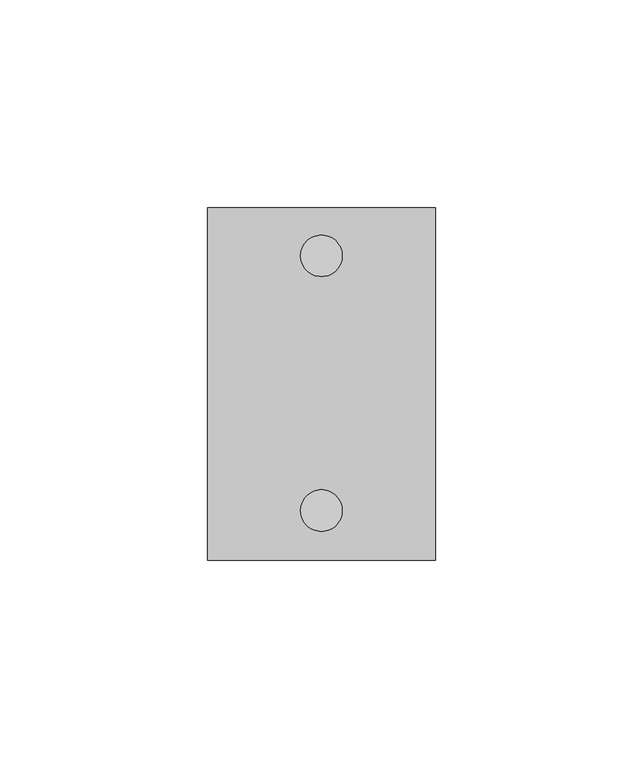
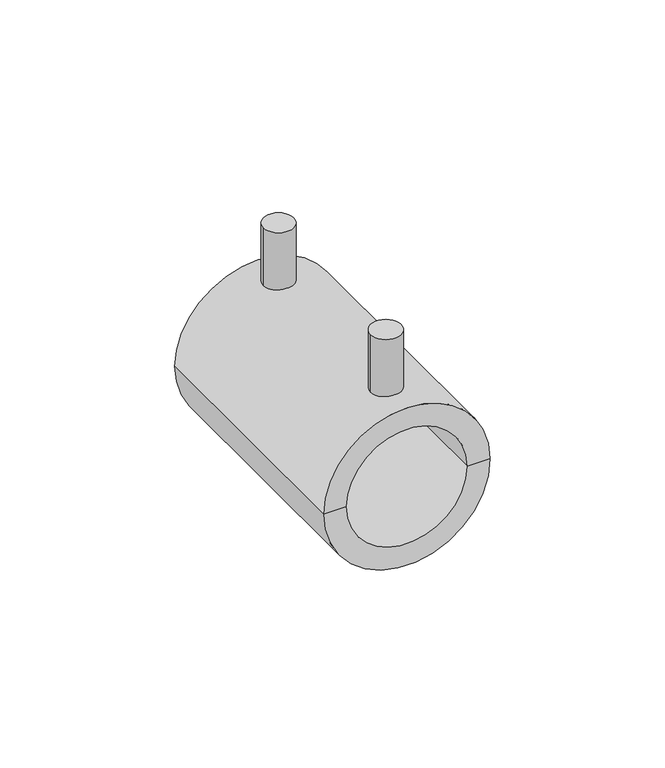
"""IFC4 building model written with IfcOpenShell, lengths in millimetres: pipe fitting geometry, NIRON RED electrico manguito : Estándar."""

import ifcopenshell
import ifcopenshell.guid

model = None  # the IFC model being written
_history = None  # IfcOwnerHistory: only IFC2X3 demands one
_inside = {}  # id of a spatial element -> (the spatial element, [elements in it])
_under = {}  # id of a project, library or spatial element -> (it, [spatial elements below it])
_declared = {}  # id of a project -> (the project, [libraries it declares])
_typed = {}  # id of a type object -> (the type object, [elements of that type])
_made_of = {}  # id of a material, layer set ... -> (it, [elements and type objects made of it])


def new_model(schema):
    """Start an empty IFC model of exactly this schema.

    Asked for "IFC4X3", IfcOpenShell would pick the latest addendum, in which some entities
    have other attributes; the version numbers below select the first issue.
    IFC2X3 requires an IfcOwnerHistory on every rooted entity: one is made here for all.
    """
    global model, _history
    if schema == "IFC4X3":
        model = ifcopenshell.file(schema_version=(4, 3, 0, 0))
    else:
        model = ifcopenshell.file(schema=schema)
    _inside.clear()
    _under.clear()
    _declared.clear()
    _typed.clear()
    _made_of.clear()
    _history = None
    if model.schema == "IFC2X3":
        org = make("IfcOrganization", Name="unknown")
        user = make(
            "IfcPersonAndOrganization",
            ThePerson=make("IfcPerson", FamilyName="unknown"),
            TheOrganization=org,
        )
        app = make(
            "IfcApplication",
            ApplicationDeveloper=org,
            Version="unknown",
            ApplicationFullName="unknown",
            ApplicationIdentifier="unknown",
        )
        _history = make(
            "IfcOwnerHistory",
            OwningUser=user,
            OwningApplication=app,
            ChangeAction="ADDED",
            CreationDate=0,
        )
    return model


def make(cls, **values):
    """One entity of the class cls with the attributes given. An attribute that is None is left unset."""
    return model.create_entity(
        cls, **{name: value for name, value in values.items() if value is not None}
    )


def rooted(cls, **values):
    """An entity with a GlobalId (a new one), such as an element, a storey or a relation."""
    return make(cls, GlobalId=ifcopenshell.guid.new(), OwnerHistory=_history, **values)


def si_unit(unit_type, name, prefix=None):
    """IfcSIUnit, for example si_unit("LENGTHUNIT", "METRE", prefix="MILLI")."""
    return make("IfcSIUnit", UnitType=unit_type, Prefix=prefix, Name=name)


def assignment(units):
    """IfcUnitAssignment: the units of a project."""
    return None if units is None else make("IfcUnitAssignment", Units=units)


def point(xyz):
    """IfcCartesianPoint."""
    return None if xyz is None else make("IfcCartesianPoint", Coordinates=xyz)


def direction(xyz):
    """IfcDirection."""
    return None if xyz is None else make("IfcDirection", DirectionRatios=xyz)


def frame(location, z_axis=None, x_axis=None):
    """IfcAxis2Placement3D, a coordinate frame: its origin and axes. An axis left out is left unset."""
    return make(
        "IfcAxis2Placement3D",
        Location=point(location),
        Axis=direction(z_axis),
        RefDirection=direction(x_axis),
    )


def frame_2d(location, x_axis=None):
    """IfcAxis2Placement2D, a coordinate frame in the plane: its origin and x axis."""
    return make(
        "IfcAxis2Placement2D", Location=point(location), RefDirection=direction(x_axis)
    )


def origin():
    """The frame at (0, 0, 0) with its axes left unset."""
    return frame((0.0, 0.0, 0.0))


def place(relative_to, where):
    """IfcLocalPlacement: puts the frame where relative to a parent placement (None: the world)."""
    return make(
        "IfcLocalPlacement", PlacementRelTo=relative_to, RelativePlacement=where
    )


def context(
    kind, dimensions, precision=None, world=None, true_north=None, identifier=None
):
    """IfcGeometricRepresentationContext, for example the 3D "Model" context."""
    return make(
        "IfcGeometricRepresentationContext",
        ContextIdentifier=identifier,
        ContextType=kind,
        CoordinateSpaceDimension=dimensions,
        Precision=precision,
        WorldCoordinateSystem=world,
        TrueNorth=true_north,
    )


def project(units=None, contexts=None):
    """IfcProject with its units and contexts."""
    return rooted(
        "IfcProject",
        Name="project",
        RepresentationContexts=contexts,
        UnitsInContext=assignment(units),
    )


def spatial(cls, under=None, at=None, **own):
    """A site, building, storey or space (cls), placed at a placement, below another one or the project."""
    s = rooted(cls, ObjectPlacement=at, **own)
    if under is not None:
        _under.setdefault(under.id(), (under, []))[1].append(s)
    return s


def polyline(points):
    """IfcPolyline through the points."""
    return make("IfcPolyline", Points=[point(p) for p in points])


def circle_curve(where, radius):
    """IfcCircle in the frame where."""
    return make("IfcCircle", Position=where, Radius=radius)


def trimmed(basis, trim1, trim2, sense, master):
    """IfcTrimmedCurve: the piece of a basis curve between two trims."""
    return make(
        "IfcTrimmedCurve",
        BasisCurve=basis,
        Trim1=trim1,
        Trim2=trim2,
        SenseAgreement=sense,
        MasterRepresentation=master,
    )


def segment(curve, same_sense, transition):
    """IfcCompositeCurveSegment."""
    return make(
        "IfcCompositeCurveSegment",
        Transition=transition,
        SameSense=same_sense,
        ParentCurve=curve,
    )


def composite_curve(segments, self_intersect=None):
    """IfcCompositeCurve: segments joined end to end."""
    return make("IfcCompositeCurve", Segments=segments, SelfIntersect=self_intersect)


def outline(outer, holes=None, kind="AREA"):
    """IfcArbitraryClosedProfileDef: a profile drawn as a closed curve; with holes, ...WithVoids."""
    if holes is None:
        return make("IfcArbitraryClosedProfileDef", ProfileType=kind, OuterCurve=outer)
    return make(
        "IfcArbitraryProfileDefWithVoids",
        ProfileType=kind,
        OuterCurve=outer,
        InnerCurves=holes,
    )


def extrude(swept, where, along, depth):
    """IfcExtrudedAreaSolid: the profile swept, set in the frame where, extruded along a direction by depth."""
    return make(
        "IfcExtrudedAreaSolid",
        SweptArea=swept,
        Position=where,
        ExtrudedDirection=direction(along),
        Depth=depth,
    )


def shape(context_of_items, identifier, shape_type, items):
    """IfcShapeRepresentation: the items that make up one representation, for example the "Body"."""
    return make(
        "IfcShapeRepresentation",
        ContextOfItems=context_of_items,
        RepresentationIdentifier=identifier,
        RepresentationType=shape_type,
        Items=items,
    )


def source(mapping_origin, context_of_items, identifier, shape_type, items):
    """IfcRepresentationMap: a shape defined once, which mapped items show again and again."""
    return make(
        "IfcRepresentationMap",
        MappingOrigin=mapping_origin,
        MappedRepresentation=shape(context_of_items, identifier, shape_type, items),
    )


def transform(
    local_origin,
    x_axis=None,
    y_axis=None,
    z_axis=None,
    scale=None,
    scale2=None,
    scale3=None,
    uniform=True,
):
    """IfcCartesianTransformationOperator3D, or its non-uniform kind. x_axis, y_axis, z_axis: its Axis1, 2, 3."""
    if uniform:
        return make(
            "IfcCartesianTransformationOperator3D",
            Axis1=direction(x_axis),
            Axis2=direction(y_axis),
            LocalOrigin=point(local_origin),
            Scale=scale,
            Axis3=direction(z_axis),
        )
    return make(
        "IfcCartesianTransformationOperator3DnonUniform",
        Axis1=direction(x_axis),
        Axis2=direction(y_axis),
        LocalOrigin=point(local_origin),
        Scale=scale,
        Axis3=direction(z_axis),
        Scale2=scale2,
        Scale3=scale3,
    )


def mapped(mapping_source, mapping_target):
    """IfcMappedItem: shows the shape of a source again, moved by a transform."""
    return make(
        "IfcMappedItem", MappingSource=mapping_source, MappingTarget=mapping_target
    )


def made_of(thing, what):
    """Note that an element or type object is made of a material, layer set ...; save() writes the relation."""
    if what is not None:
        _made_of.setdefault(what.id(), (what, []))[1].append(thing)
    return thing


def element(
    cls,
    number,
    at=None,
    inside=None,
    cuts=None,
    type_object=None,
    material=None,
    context=None,
    identifier="Body",
    shape_type=None,
    held_by="IfcProductDefinitionShape",
    body=None,
    shapes=None,
    **own,
):
    """One element of the class cls, such as IfcWall. Its Tag is "e" and its number.

    at: its placement. inside: the storey or other place that contains it. cuts: it is an
    opening in that element (IfcRelVoidsElement). A single representation is given by context,
    identifier, shape_type and body (its items); several are given by shapes. held_by: the class
    of the entity that holds the representations. save() writes the other relations.
    """
    e = rooted(cls, Tag="e%d" % number, ObjectPlacement=at, **own)
    if body is not None:
        shapes = [shape(context, identifier, shape_type, body)]
    if shapes is not None:
        e.Representation = make(held_by, Representations=shapes)
    if inside is not None:
        _inside.setdefault(inside.id(), (inside, []))[1].append(e)
    if cuts is not None:
        rooted(
            "IfcRelVoidsElement", RelatingBuildingElement=cuts, RelatedOpeningElement=e
        )
    if type_object is not None:
        _typed.setdefault(type_object.id(), (type_object, []))[1].append(e)
    return made_of(e, material)


def aggregate(whole, parts):
    """IfcRelAggregates: a whole, such as a stair, and the parts it consists of."""
    return rooted("IfcRelAggregates", RelatingObject=whole, RelatedObjects=parts)


def save(model, path):
    """Write the relations noted so far, then the file.

    IfcRelAggregates (storeys below a building ...), IfcRelContainedInSpatialStructure (elements
    in a storey), IfcRelDefinesByType, IfcRelAssociatesMaterial and IfcRelDeclares: one each for
    every whole, place, type object, material and project.
    """
    for whole, parts in _under.values():
        aggregate(whole, parts)
    for where, things in _inside.values():
        rooted(
            "IfcRelContainedInSpatialStructure",
            RelatedElements=things,
            RelatingStructure=where,
        )
    for kind, things in _typed.values():
        rooted("IfcRelDefinesByType", RelatedObjects=things, RelatingType=kind)
    for what, things in _made_of.values():
        rooted("IfcRelAssociatesMaterial", RelatedObjects=things, RelatingMaterial=what)
    for by, libraries in _declared.values():
        rooted("IfcRelDeclares", RelatingContext=by, RelatedDefinitions=libraries)
    model.write(path)


def plane_surface(at):
    """IfcPlane: the flat surface through the origin of the frame at, square to its z axis."""
    return make("IfcPlane", Position=at)


def cylinder_surface(at, radius):
    """IfcCylindricalSurface: all points at the distance radius from the z axis of the frame at."""
    return make("IfcCylindricalSurface", Position=at, Radius=radius)


def revolved_surface(curve, axis_point, axis_direction):
    """IfcSurfaceOfRevolution: the curve turned about the line through axis_point along axis_direction."""
    return make(
        "IfcSurfaceOfRevolution",
        SweptCurve=make("IfcArbitraryOpenProfileDef", ProfileType="CURVE", Curve=curve),
        AxisPosition=make("IfcAxis1Placement", Location=point(axis_point), Axis=direction(axis_direction)),
    )


def advanced_brep(points, edges, surfaces, faces):
    """IfcAdvancedBrep: a solid bounded by faces that lie on surfaces and meet in shared edges.

    An edge is (start, end): straight between two places in points (the first is 0);
    or (start, end, curve); or (start, end, curve, False) where it runs against its curve.
    A face is (place in surfaces, loops), or (place, loops, False) where it looks against
    its surface's normal. A loop lists edges by number (the first is 1), with a minus sign
    where the edge is run from its end to its start. The first loop is the outer one.
    """
    corners = [point(p) for p in points]
    vertices = [make("IfcVertexPoint", VertexGeometry=c) for c in corners]
    made = []
    for start, end, *more in edges:
        made.append(
            make(
                "IfcEdgeCurve",
                EdgeStart=vertices[start],
                EdgeEnd=vertices[end],
                EdgeGeometry=more[0] if more else make("IfcPolyline", Points=[corners[start], corners[end]]),
                SameSense=more[1] if len(more) > 1 else True,
            )
        )
    hull = []
    for where, loops, *sense in faces:
        bounds = []
        for j, loop in enumerate(loops):
            ring = [make("IfcOrientedEdge", EdgeElement=made[abs(k) - 1], Orientation=k > 0) for k in loop]
            bounds.append(
                make(
                    "IfcFaceOuterBound" if j == 0 else "IfcFaceBound",
                    Bound=make("IfcEdgeLoop", EdgeList=ring),
                    Orientation=True,
                )
            )
        hull.append(make("IfcAdvancedFace", Bounds=bounds, FaceSurface=surfaces[where], SameSense=sense[0] if sense else True))
    return make("IfcAdvancedBrep", Outer=make("IfcClosedShell", CfsFaces=hull))


def pipe_fitting_e91b4564(model_context):
    return source(origin(), model_context, "Body", "SolidModel", [
        advanced_brep(
        [(27.5, 85.0, 0.0), (-27.5, 85.0, 0.0), (-20.0, 85.0, 0.0), (20.0, 85.0, 0.0), (27.5, 0.0, 0.0), (-27.5, 0.0, 0.0), (20.0, 0.0, 0.0), (-20.0, 0.0, 0.0), (20.0, 41.0, 0.0), (-20.0, 41.0, 0.0), (18.5, 41.0, 0.0), (-18.5, 41.0, 0.0), (18.5, 44.0, 0.0), (-18.5, 44.0, 0.0), (20.0, 44.0, 0.0), (-20.0, 44.0, 0.0)],
        [
            (0, 1, circle_curve(frame((0.0, 85.0, 0.0), z_axis=(0.0, 1.0, 0.0), x_axis=(-1.0, 0.0, 0.0)), 27.5)),
            (1, 2),
            (2, 3, circle_curve(frame((0.0, 85.0, 0.0), z_axis=(0.0, -1.0, 0.0), x_axis=(-1.0, 0.0, 0.0)), 20.0)),
            (3, 0),
            (1, 0, circle_curve(frame((0.0, 85.0, 0.0), z_axis=(0.0, 1.0, 0.0), x_axis=(-1.0, 0.0, 0.0)), 27.5)),
            (3, 2, circle_curve(frame((0.0, 85.0, 0.0), z_axis=(0.0, -1.0, 0.0), x_axis=(-1.0, 0.0, 0.0)), 20.0)),
            (4, 5, circle_curve(frame((0.0, 0.0, 0.0), z_axis=(0.0, 1.0, 0.0), x_axis=(-1.0, 0.0, 0.0)), 27.5)),
            (5, 1),
            (0, 4),
            (5, 4, circle_curve(frame((0.0, 0.0, 0.0), z_axis=(0.0, 1.0, 0.0), x_axis=(-1.0, 0.0, 0.0)), 27.5)),
            (6, 7, circle_curve(frame((0.0, 0.0, 0.0), z_axis=(0.0, 1.0, 0.0), x_axis=(-1.0, 0.0, 0.0)), 20.0)),
            (7, 5),
            (4, 6),
            (7, 6, circle_curve(frame((0.0, 0.0, 0.0), z_axis=(0.0, 1.0, 0.0), x_axis=(-1.0, 0.0, 0.0)), 20.0)),
            (8, 9, circle_curve(frame((0.0, 41.0, 0.0), z_axis=(0.0, 1.0, 0.0), x_axis=(-1.0, 0.0, 0.0)), 20.0)),
            (9, 7),
            (6, 8),
            (9, 8, circle_curve(frame((0.0, 41.0, 0.0), z_axis=(0.0, 1.0, 0.0), x_axis=(-1.0, 0.0, 0.0)), 20.0)),
            (10, 11, circle_curve(frame((0.0, 41.0, 0.0), z_axis=(0.0, 1.0, 0.0), x_axis=(-1.0, 0.0, 0.0)), 18.5)),
            (11, 9),
            (8, 10),
            (11, 10, circle_curve(frame((0.0, 41.0, 0.0), z_axis=(0.0, 1.0, 0.0), x_axis=(-1.0, 0.0, 0.0)), 18.5)),
            (12, 13, circle_curve(frame((0.0, 44.0, 0.0), z_axis=(0.0, 1.0, 0.0), x_axis=(-1.0, 0.0, 0.0)), 18.5)),
            (13, 11),
            (10, 12),
            (13, 12, circle_curve(frame((0.0, 44.0, 0.0), z_axis=(0.0, 1.0, 0.0), x_axis=(-1.0, 0.0, 0.0)), 18.5)),
            (14, 15, circle_curve(frame((0.0, 44.0, 0.0), z_axis=(0.0, 1.0, 0.0), x_axis=(-1.0, 0.0, 0.0)), 20.0)),
            (15, 13),
            (12, 14),
            (15, 14, circle_curve(frame((0.0, 44.0, 0.0), z_axis=(0.0, 1.0, 0.0), x_axis=(-1.0, 0.0, 0.0)), 20.0)),
            (2, 15),
            (14, 3),
        ],
        [
            plane_surface(frame((0.0, 85.0, 0.0), z_axis=(0.0, 1.0, 0.0), x_axis=(-1.0, 0.0, 0.0))),
            cylinder_surface(frame((0.0, 110.0, 0.0), z_axis=(0.0, -1.0, 0.0), x_axis=(-1.0, 0.0, 0.0)), 27.5),
            plane_surface(frame((0.0, 0.0, 0.0), z_axis=(0.0, -1.0, 0.0), x_axis=(-1.0, 0.0, 0.0))),
            revolved_surface(polyline([(-20.0, 0.0, 0.0), (-20.0, 41.0, 0.0)]), (0.0, 110.0, 0.0), (0.0, -1.0, 0.0)),
            plane_surface(frame((0.0, 41.0, 0.0), z_axis=(0.0, -1.0, 0.0), x_axis=(-1.0, 0.0, 0.0))),
            revolved_surface(polyline([(-18.5, 41.0, 0.0), (-18.5, 44.0, 0.0)]), (0.0, 110.0, 0.0), (0.0, -1.0, 0.0)),
            plane_surface(frame((0.0, 44.0, 0.0), z_axis=(0.0, 1.0, 0.0), x_axis=(-1.0, 0.0, 0.0))),
            revolved_surface(polyline([(-20.0, 44.0, 0.0), (-20.0, 85.0, 0.0)]), (0.0, 110.0, 0.0), (0.0, -1.0, 0.0)),
        ],
        [
            (0, [[1, 2, 3, 4]]),
            (0, [[5, -4, 6, -2]]),
            (1, [[7, 8, -1, 9]]),
            (1, [[10, -9, -5, -8]]),
            (2, [[11, 12, -7, 13]]),
            (2, [[14, -13, -10, -12]]),
            (3, [[15, 16, -11, 17]]),
            (3, [[18, -17, -14, -16]]),
            (4, [[19, 20, -15, 21]]),
            (4, [[22, -21, -18, -20]]),
            (5, [[23, 24, -19, 25]]),
            (5, [[26, -25, -22, -24]]),
            (6, [[27, 28, -23, 29]]),
            (6, [[30, -29, -26, -28]]),
            (7, [[-3, 31, -27, 32]]),
            (7, [[-6, -32, -30, -31]]),
        ],
    ),
        extrude(outline(composite_curve([segment(trimmed(circle_curve(frame_2d((0.0, 12.0)), 5.0), [point((-5.0, 12.0))], [point((5.0, 12.0))], False, "CARTESIAN"), True, "CONTINUOUS"), segment(trimmed(circle_curve(frame_2d((0.0, 12.0)), 5.0), [point((5.0, 12.0))], [point((-5.0, 12.0))], False, "CARTESIAN"), True, "CONTINUOUS")], self_intersect=False)), frame((0.0, 0.0, 24.5), z_axis=(0.0, 0.0, 1.0), x_axis=(1.0, 0.0, 0.0)), (0.0, 0.0, 1.0), 23.0),
        extrude(outline(composite_curve([segment(trimmed(circle_curve(frame_2d((0.0, 73.3742842)), 5.0), [point((-5.0, 73.3742842))], [point((5.0, 73.3742842))], False, "CARTESIAN"), True, "CONTINUOUS"), segment(trimmed(circle_curve(frame_2d((0.0, 73.3742842)), 5.0), [point((5.0, 73.3742842))], [point((-5.0, 73.3742842))], False, "CARTESIAN"), True, "CONTINUOUS")], self_intersect=False)), frame((0.0, 0.0, 24.5), z_axis=(0.0, 0.0, 1.0), x_axis=(1.0, 0.0, 0.0)), (0.0, 0.0, 1.0), 23.0),
    ])


if __name__ == "__main__":
    model = new_model("IFC4")
    model_context = context("Model", 3, world=origin())
    ifc_project = project(units=[si_unit("LENGTHUNIT", "METRE", prefix="MILLI")], contexts=[model_context])
    site = spatial("IfcSite", under=ifc_project)
    building = spatial("IfcBuilding", under=site)
    placement = place(None, origin())
    pipe_fitting_shape = pipe_fitting_e91b4564(model_context)
    element("IfcPipeFitting", 1, ObjectType="NIRON RED electrico manguito : Estándar", at=placement, inside=building, context=model_context, shape_type="MappedRepresentation", body=[
        mapped(pipe_fitting_shape, transform((0.0, 0.0, 0.0), x_axis=(1.0, 0.0, 0.0), y_axis=(0.0, 1.0, 0.0), z_axis=(0.0, 0.0, 1.0))),
    ])
    save(model, "model.ifc")
